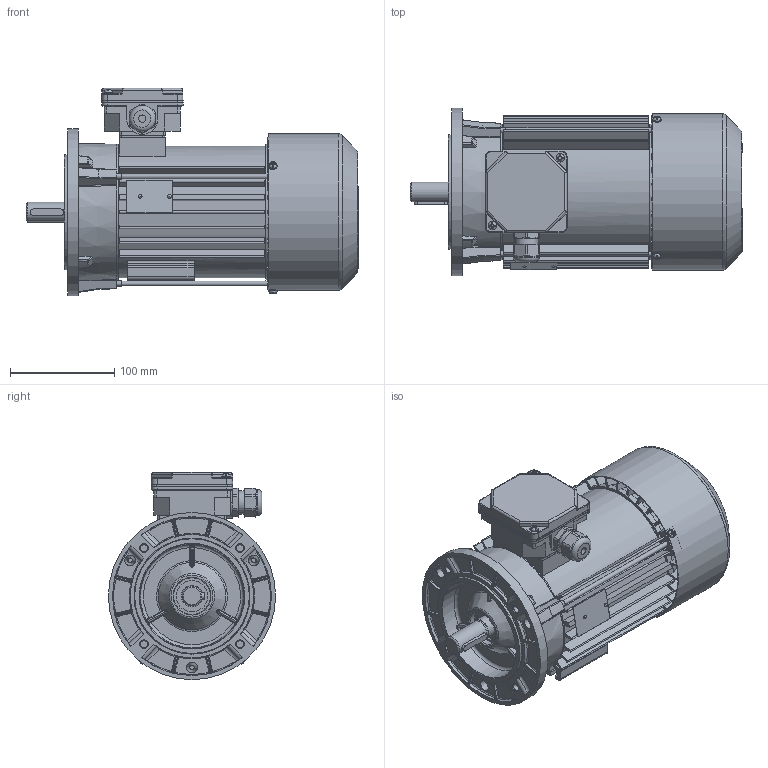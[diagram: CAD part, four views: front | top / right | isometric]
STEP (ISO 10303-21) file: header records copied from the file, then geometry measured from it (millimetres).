
FILE_DESCRIPTION( ( 'Unknown' ), '1' );
FILE_NAME( 'G:/Poczta Tk-1/STP/w.m.80/Sh80/SKh80x-.D1.stp', 'Unknown', ( 'K. Szlosek' ), ( 'BESEL S.A.' ), 'PSStep 17.0.49', 'Unknown', ' ' );
FILE_SCHEMA( ( 'AUTOMOTIVE_DESIGN { 1 0 10303 214 1 1 1 1 }' ) );
Length unit declared in the file: millimetre
Products named in the file (29): skrznka zaciskowa trójfazowa ; K4-2820 Uszczelka nr 2 Sh71,80; Dławnica M20x1,5; K2-0859 Podstawa skrzynki 6-cio zaciskowej; K2-0860 Pokrywka skrzynki zaciskowej; Assem1; K1-1257 Kadłub S(E,M)h80-C i D; Wkręt samogwintujący M4x16; Wkręt samogwintujący M4x10; K4-2320 Uszczelka nr 1 Sh71,80; Wpust A6x6x32; K2-1715 Przewietrznik; Nitokołek A 2x6; Łożysko 6204; Śruba ściągająca E_M5x168; Tabliczka znamionowa 32x44; K3-6857 Tarcza łożyskowa P S(E,M)h80-B,D; K3-2964 Osłona przewietrznika Sh80,90; K3-5645 wał S(E,M)h80-.D; K1-1259 Tarcza kołnierzowa 80 B14_1 
Assembly tree (44 placements, depth 3):
  Assem1
    K1-1257 Kadłub S(E,M)h80-C i D
    Wkręt samogwintujący M4x16  x2
    Wkręt samogwintujący M4x10  x3
    K4-2320 Uszczelka nr 1 Sh71,80
    Wpust A6x6x32
    K2-1715 Przewietrznik
    Nitokołek A 2x6  x2
    Łożysko 6204  x2
    Łożysko 6204  x2
    Łożysko 6204  x2
    Łożysko 6204  x2
    Łożysko 6204  x2
    Łożysko 6204  x2
    Łożysko 6204  x2
    Łożysko 6204  x2
    Łożysko 6204  x2
    Łożysko 6204  x2
    Śruba ściągająca E_M5x168  x3
    Tabliczka znamionowa 32x44
    K3-6857 Tarcza łożyskowa P S(E,M)h80-B,D
    K3-2964 Osłona przewietrznika Sh80,90
    K3-5645 wał S(E,M)h80-.D
    K1-1259 Tarcza kołnierzowa 80 B14_1 
    skrznka zaciskowa trójfazowa 
      K4-2820 Uszczelka nr 2 Sh71,80
      Dławnica M20x1,5
      K2-0859 Podstawa skrzynki 6-cio zaciskowej
      K2-0860 Pokrywka skrzynki zaciskowej
Bounding box: 317.8 x 160 x 198.5 mm (x, y, z)
Volume: 983202.7 mm3; surface area: 606480.6 mm2
Topology: 43 solids, 59 shells, 2904 faces, 7807 edges, 5005 vertices
Faces by surface type: plane 1266, cylinder 835, bspline 363, torus 210, cone 186, sphere 44
Full cylindrical faces by diameter (mm): 2 x2, 2.4 x2, 3.7 x11, 4 x6, 4.2 x3, 4.5 x1, 4.6 x3, 4.8 x4, 5 x7, 5.5 x3, 6.8 x4, 7 x1, 8 x9, 18.376 x1, 18.38 x1, 18.6 x1, 19 x1, 19.3 x1, 19.5 x2, 19.6 x2, 19.9 x1, 20 x5, 20.4 x2, 22.3 x1, 25 x1, 25.5 x1, 25.6 x1, 26 x4, 28.802 x4, 30 x1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
Entity records: 172966 total; most frequent: CARTESIAN_POINT 86096, ORIENTED_EDGE 14128, DIRECTION 12958, EDGE_CURVE 7064, AXIS2_PLACEMENT_3D 4900, VERTEX_POINT 4662, EDGE_LOOP 3224, LINE 3158
